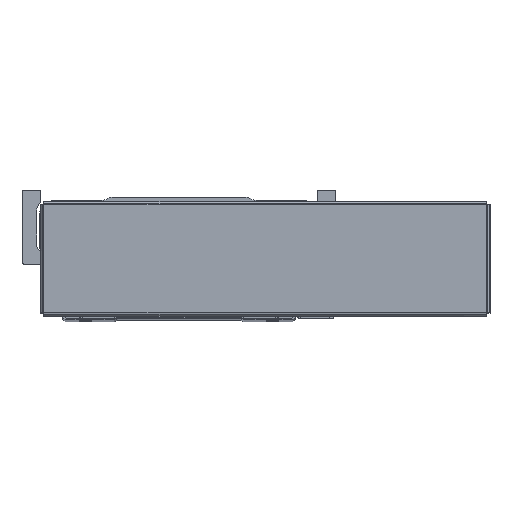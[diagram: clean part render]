
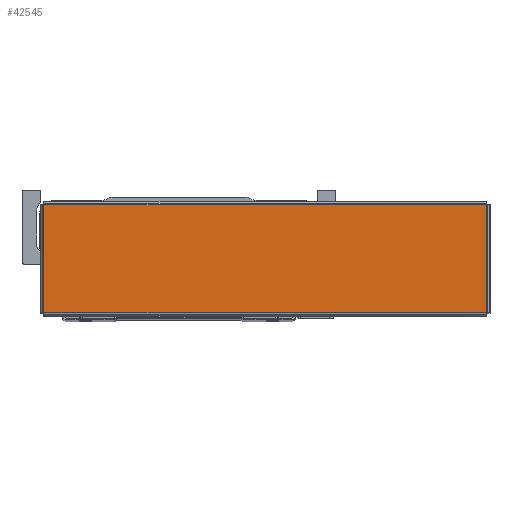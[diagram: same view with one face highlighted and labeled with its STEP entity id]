
A CAD part, top view. The second image highlights one B-rep face of the part: STEP entity #42545.
In plain terms, the highlighted planar face has unit normal (0, 0, 1) as drawn and (0, -1, 0) by its records, which use the part's own axes.
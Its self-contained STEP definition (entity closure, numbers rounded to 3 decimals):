
#1898 = AXIS2_PLACEMENT_3D ( 'NONE', #11217, #11248, #11247 ) ;
#3007 = CARTESIAN_POINT ( 'NONE',  ( -128.363, -1.2, 31.363 ) ) ;
#3033 = CARTESIAN_POINT ( 'NONE',  ( 128.363, -1.2, -31.363 ) ) ;
#3053 = CARTESIAN_POINT ( 'NONE',  ( -128.363, -1.2, -31.363 ) ) ;
#3056 = CARTESIAN_POINT ( 'NONE',  ( 128.363, -1.2, 31.363 ) ) ;
#4535 = EDGE_LOOP ( 'NONE', ( #15321, #15409, #15370, #15259 ) ) ;
#11217 = CARTESIAN_POINT ( 'NONE',  ( 0., -1.2, 0. ) ) ;
#11246 = PLANE ( 'NONE',  #1898 ) ;
#11247 = DIRECTION ( 'NONE',  ( 0., 0., 1. ) ) ;
#11248 = DIRECTION ( 'NONE',  ( 0., 1., 0. ) ) ;
#15259 = ORIENTED_EDGE ( 'NONE', *, *, #23167, .T. ) ;
#15321 = ORIENTED_EDGE ( 'NONE', *, *, #23151, .T. ) ;
#15370 = ORIENTED_EDGE ( 'NONE', *, *, #23170, .T. ) ;
#15409 = ORIENTED_EDGE ( 'NONE', *, *, #23215, .T. ) ;
#16702 = VERTEX_POINT ( 'NONE', #3053 ) ;
#16703 = VERTEX_POINT ( 'NONE', #3033 ) ;
#16709 = VERTEX_POINT ( 'NONE', #3007 ) ;
#16756 = VERTEX_POINT ( 'NONE', #3056 ) ;
#17462 = LINE ( 'NONE', #50168, #17474 ) ;
#17474 = VECTOR ( 'NONE', #50138, 1000. ) ;
#17499 = LINE ( 'NONE', #50101, #17516 ) ;
#17510 = LINE ( 'NONE', #50140, #17515 ) ;
#17515 = VECTOR ( 'NONE', #50174, 1000. ) ;
#17516 = VECTOR ( 'NONE', #50106, 1000. ) ;
#17519 = VECTOR ( 'NONE', #50265, 1000. ) ;
#17539 = LINE ( 'NONE', #50262, #17519 ) ;
#23151 = EDGE_CURVE ( 'NONE', #16756, #16709, #17499, .T. ) ;
#23167 = EDGE_CURVE ( 'NONE', #16703, #16756, #17510, .T. ) ;
#23170 = EDGE_CURVE ( 'NONE', #16702, #16703, #17462, .T. ) ;
#23215 = EDGE_CURVE ( 'NONE', #16709, #16702, #17539, .T. ) ;
#25583 = FACE_OUTER_BOUND ( 'NONE', #4535, .T. ) ;
#42545 = ADVANCED_FACE ( 'NONE', ( #25583 ), #11246, .F. ) ;
#50101 = CARTESIAN_POINT ( 'NONE',  ( 128.393, -1.2, 31.363 ) ) ;
#50106 = DIRECTION ( 'NONE',  ( -1., 0., 0. ) ) ;
#50138 = DIRECTION ( 'NONE',  ( 1., 0., 0. ) ) ;
#50140 = CARTESIAN_POINT ( 'NONE',  ( 128.363, -1.2, -31.393 ) ) ;
#50168 = CARTESIAN_POINT ( 'NONE',  ( -128.393, -1.2, -31.363 ) ) ;
#50174 = DIRECTION ( 'NONE',  ( 0., 0., 1. ) ) ;
#50262 = CARTESIAN_POINT ( 'NONE',  ( -128.363, -1.2, 31.393 ) ) ;
#50265 = DIRECTION ( 'NONE',  ( 0., 0., -1. ) ) ;
